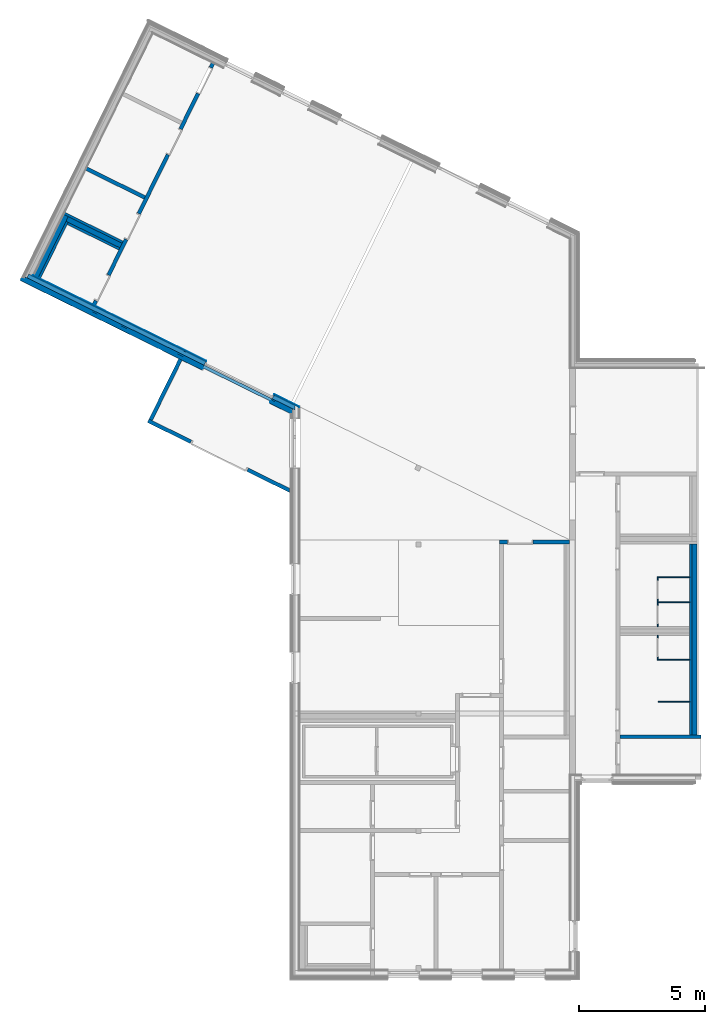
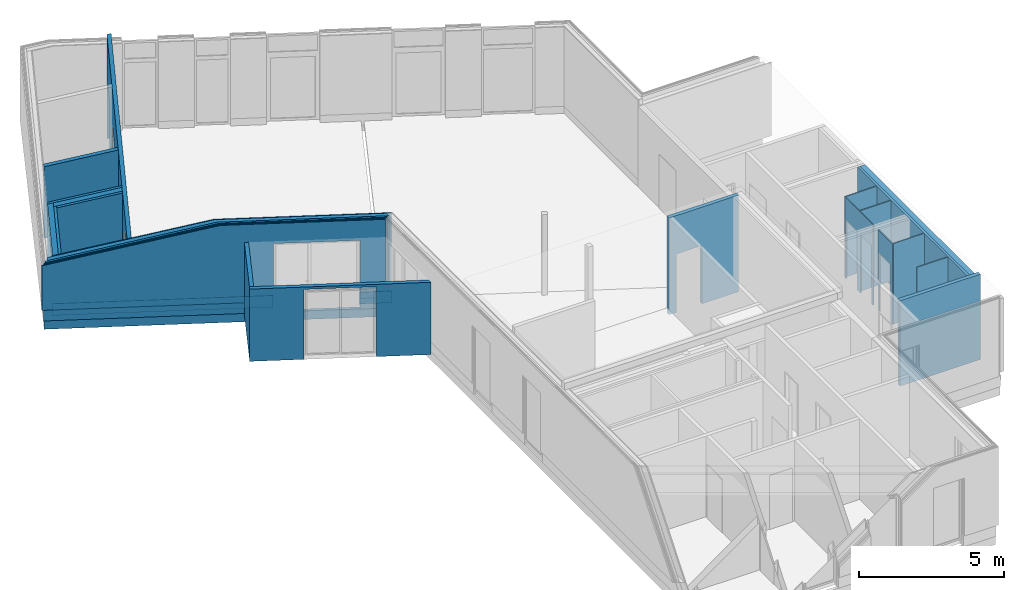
# One storey, part 4 of 23: 30 walls, 20 openings, 3 elements without a shape of their own.
"""IFC4 building model written with IfcOpenShell, lengths in metres."""

from ifc_helpers import new_model, entity, si_unit, converted_unit, derived_unit, frame, frame_2d, origin, origin_with_axes, place, context, subcontext, project, spatial, polyline, rectangle, outline, extrude, clip, halfspace, bounded_halfspace, material, element, aggregate, save


model = new_model("IFC4")

# Units and contexts
model_context = context("Model", 3, precision=1e-05, world=origin())
body_context = subcontext(model_context, "Body", "Model", "MODEL_VIEW")
ifc_project = project(units=[si_unit("LENGTHUNIT", "METRE"), si_unit("AREAUNIT", "SQUARE_METRE"), si_unit("VOLUMEUNIT", "CUBIC_METRE"), si_unit("MASSUNIT", "GRAM", prefix="KILO"), converted_unit("PLANEANGLEUNIT", "DEGREE", entity("IfcPlaneAngleMeasure", 0.0174532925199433), si_unit("PLANEANGLEUNIT", "RADIAN"), dimensions=[0, 0, 0, 0, 0, 0, 0]), derived_unit("THERMALTRANSMITTANCEUNIT", [(si_unit("POWERUNIT", "WATT"), 1), (si_unit("THERMODYNAMICTEMPERATUREUNIT", "KELVIN"), -1), (si_unit("LENGTHUNIT", "METRE"), -2)]), derived_unit("VOLUMETRICFLOWRATEUNIT", [(si_unit("LENGTHUNIT", "METRE"), 3), (converted_unit("TIMEUNIT", "hour", entity("IfcTimeMeasure", 3600.0), si_unit("TIMEUNIT", "SECOND"), dimensions=[0, 0, 1, 0, 0, 0, 0]), -1), (si_unit("LENGTHUNIT", "METRE"), -1)])], contexts=[model_context])

# Site, building, storey
site_placement = place(None, origin())
site = spatial("IfcSite", under=ifc_project, at=site_placement, Name="Psychiatrie Neubau Wunstorf", CompositionType="ELEMENT")
building_placement = place(site_placement, origin())
building = spatial("IfcBuilding", under=site, at=building_placement, Name="Neubau H1 Sozialzentrum", CompositionType="ELEMENT")
storey_placement = place(building_placement, frame((0.0, 0.0, 0.7)))
storey = spatial("IfcBuildingStorey", under=building, at=storey_placement, Name="H1 Ebene 0", CompositionType="ELEMENT", Elevation=0.7)

# Wall
ifc_material_1 = material(Name="WA-HS")
wall_1_placement = place(storey_placement, frame((-21.7041777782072, 26.0228670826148, -0.2), z_axis=(0.0, 0.0, 1.0), x_axis=(0.442222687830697, 0.896905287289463, 0.0)))
element("IfcWall", 1, at=wall_1_placement, inside=storey, material=ifc_material_1, context=body_context, shape_type="SweptSolid", body=[
    extrude(rectangle(XDim=2.67323132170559, YDim=0.149999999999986, at=frame_2d((1.33661566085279, 0.0749999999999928), x_axis=(1.0, 0.0))), origin_with_axes(), (0.0, 0.0, 1.0), 3.05),
])

# Wall, opening
ifc_material_2 = material(Name="WA-HS")
wall_2_placement = place(storey_placement, frame((-16.2507370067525, 23.3340266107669, -0.2), z_axis=(0.0, 0.0, 1.0), x_axis=(-0.896905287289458, 0.442222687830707, 0.0)))
wall_2 = element("IfcWall", 2, at=wall_2_placement, inside=storey, material=ifc_material_2, context=body_context, shape_type="Clipping", body=[
    clip(extrude(outline(polyline([(-5.00039903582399, -2.64442704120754), (1.22988708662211, -2.64442704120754), (1.22988708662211, -2.49442704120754), (-5.05913618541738, -2.49442704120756), (-5.00039903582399, -2.61354155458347), (-5.00039903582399, -2.64442704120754)])), frame((5.00039903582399, 2.64442704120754, 0.0), z_axis=(0.0, 0.0, 1.0), x_axis=(1.0, 0.0, 0.0)), (0.0, 0.0, 1.0), 3.05), bounded_halfspace(frame((-0.0203897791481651, 0.0661770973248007, 0.5), z_axis=(0.0, 0.0, -1.0), x_axis=(-0.442222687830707, 0.896905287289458, 0.0)), True, origin_with_axes(), polyline([(0.0153731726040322, 0.0), (-0.0585849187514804, 0.149999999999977), (-0.0587371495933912, 0.149999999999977), (0.0, 0.0308854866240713), (0.0, 0.0), (0.0153731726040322, 0.0)]))),
])
opening_1_placement = place(wall_2_placement, frame((4.34028612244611, 0.149999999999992, 0.0), z_axis=(6.06329801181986e-15, -1.0, 0.0), x_axis=(0.0, 0.0, 1.0)))
element("IfcOpeningElement", 3, at=opening_1_placement, cuts=wall_2, Name="Türöffnung", ObjectType="Opening", context=body_context, shape_type="SweptSolid", body=[
    extrude(outline(polyline([(2.95, 2.5), (2.95, 0.0), (0.0, 0.0), (0.0, 2.5), (2.95, 2.5)])), origin_with_axes(), (0.0, 0.0, 1.0), 0.149999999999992),
])

ifc_material_3 = material(Name="WA-LB")
wall_3_placement = place(storey_placement, frame((-15.8985266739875, 26.5890799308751, 0.3), z_axis=(0.0, 0.0, 1.0), x_axis=(-0.896905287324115, 0.442222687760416, 0.0)))
wall_3 = element("IfcWall", 4, at=wall_3_placement, inside=storey, material=ifc_material_3, context=body_context, shape_type="Clipping", body=[
    clip(extrude(outline(polyline([(-9.4551160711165, -4.7066339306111), (2.30287447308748, -4.7066339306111), (2.3028744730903, -4.67063393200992), (-9.47286601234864, -4.67063393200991), (-9.4551160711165, -4.7066339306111)])), frame((9.4551160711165, 4.7066339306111, 0.0), z_axis=(0.0, 0.0, 1.0), x_axis=(1.0, 0.0, 0.0)), (0.0, 0.0, 1.0), 3.3), bounded_halfspace(frame((8.94480400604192, 0.0179999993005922, 2.6529670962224), z_axis=(-0.222899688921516, -0.105378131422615, -0.96912908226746), x_axis=(0.427404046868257, -0.904060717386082, 0.0)), True, origin_with_axes(), polyline([(6.1231077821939, 0.0359999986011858), (6.14012715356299, 0.0), (11.757990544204, 0.0), (11.7579905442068, 0.0359999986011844), (6.1231077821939, 0.0359999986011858)]))),
])
opening_2_placement = place(wall_3_placement, frame((4.08930374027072, 0.0359999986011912, -0.5), z_axis=(-1.26318713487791e-14, -1.0, 0.0), x_axis=(0.0, 0.0, 1.0)))
element("IfcOpeningElement", 5, at=opening_2_placement, cuts=wall_3, Name="Türöffnung", ObjectType="Opening", context=body_context, shape_type="SweptSolid", body=[
    extrude(outline(polyline([(2.95, 2.9999894), (2.95, 0.0), (0.0, 0.0), (0.0, 2.9999894), (2.95, 2.9999894)])), origin_with_axes(), (0.0, 0.0, 1.0), 0.0359999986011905),
])

ifc_material_4 = material(Name="WA-HD")
wall_4_placement = place(storey_placement, frame((-16.0585259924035, 26.6278302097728, 0.3), z_axis=(0.0, 0.0, 1.0), x_axis=(-0.896905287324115, 0.442222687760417, 0.0)))
wall_4 = element("IfcWall", 6, at=wall_4_placement, inside=storey, material=ifc_material_4, context=body_context, shape_type="Clipping", body=[
    clip(extrude(outline(polyline([(-9.44264401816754, -4.85462836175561), (2.31470535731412, -4.85462836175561), (2.31470535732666, -4.69462904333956), (-9.52153231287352, -4.69462904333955), (-9.44264401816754, -4.85462836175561)])), frame((9.44264401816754, 4.85462836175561, 0.0), z_axis=(0.0, 0.0, 1.0), x_axis=(1.0, 0.0, 0.0)), (0.0, 0.0, 1.0), 3.3), bounded_halfspace(frame((8.84099800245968, 0.0799996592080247, 2.6292391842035), z_axis=(-0.222899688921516, -0.105378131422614, -0.96912908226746), x_axis=(0.427404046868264, -0.904060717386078, 0.0)), True, origin_with_axes(), polyline([(5.88682596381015, 0.159999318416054), (5.96246729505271, 0.0), (11.7573493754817, 0.0), (11.7573493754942, 0.159999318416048), (5.88682596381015, 0.159999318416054)]))),
])
opening_3_placement = place(wall_4_placement, frame((3.92866325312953, 0.159999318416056, -0.5), z_axis=(-8.52654915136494e-15, -1.0, 0.0), x_axis=(0.0, 0.0, 1.0)))
element("IfcOpeningElement", 7, at=opening_3_placement, cuts=wall_4, Name="Türöffnung", ObjectType="Opening", context=body_context, shape_type="SweptSolid", body=[
    extrude(outline(polyline([(2.95, 2.9999894), (2.95, 0.0), (0.0, 0.0), (0.0, 2.9999894), (2.95, 2.9999894)])), origin_with_axes(), (0.0, 0.0, 1.0), 0.159999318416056),
])

ifc_material_5 = material(Name="WA-DL")
wall_5_placement = place(storey_placement, frame((-16.1385259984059, 26.4888840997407, 0.3), z_axis=(0.0, 0.0, 1.0), x_axis=(-0.896905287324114, 0.442222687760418, 0.0)))
wall_5 = element("IfcWall", 8, at=wall_5_placement, inside=storey, material=ifc_material_5, context=body_context, shape_type="Clipping", body=[
    clip(extrude(outline(polyline([(-9.50642125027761, -4.78662665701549), (2.3206208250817, -4.78662665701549), (2.32062082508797, -4.70662665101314), (-9.5458655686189, -4.70662665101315), (-9.50642125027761, -4.78662665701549)])), frame((9.50642125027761, 4.78662665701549, 0.0), z_axis=(0.0, 0.0, 1.0), x_axis=(1.0, 0.0, 0.0)), (0.0, 0.0, 1.0), 3.3), bounded_halfspace(frame((8.84232515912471, 0.0400000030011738, 2.61351510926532), z_axis=(-0.222899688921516, -0.105378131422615, -0.96912908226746), x_axis=(0.427404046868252, -0.904060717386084, 0.0)), True, origin_with_axes(), polyline([(5.83869782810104, 0.0800000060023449), (5.87651865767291, 0.0), (11.8270420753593, 0.0), (11.8270420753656, 0.0800000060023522), (5.83869782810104, 0.0800000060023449)]))),
])
opening_4_placement = place(wall_5_placement, frame((3.9183559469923, 0.080000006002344, -0.5), z_axis=(0.0, -1.0, 0.0), x_axis=(0.0, 0.0, 1.0)))
element("IfcOpeningElement", 9, at=opening_4_placement, cuts=wall_5, Name="Türöffnung", ObjectType="Opening", context=body_context, shape_type="SweptSolid", body=[
    extrude(outline(polyline([(2.95, 2.9999894), (2.95, 0.0), (0.0, 0.0), (0.0, 2.9999894), (2.95, 2.9999894)])), origin_with_axes(), (0.0, 0.0, 1.0), 0.0800000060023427),
])

ifc_material_6 = material(Name="WA-LB")
wall_6_placement = place(storey_placement, frame((-16.1745260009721, 26.4174384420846, 0.3), z_axis=(0.0, 0.0, 1.0), x_axis=(-0.896905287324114, 0.442222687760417, 0.0)))
wall_6 = element("IfcWall", 10, at=wall_6_placement, inside=storey, material=ifc_material_6, context=body_context, shape_type="Clipping", body=[
    clip(extrude(outline(polyline([(-9.53906559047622, -4.74802557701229), (2.32328278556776, -4.74802557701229), (2.32328278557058, -4.71202557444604), (-9.55681553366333, -4.71202557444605), (-9.53906559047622, -4.74802557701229)])), frame((9.53906559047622, 4.74802557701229, 0.0), z_axis=(0.0, 0.0, 1.0), x_axis=(1.0, 0.0, 0.0)), (0.0, 0.0, 1.0), 3.3), bounded_halfspace(frame((8.8459214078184, 0.0180000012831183, 2.60622179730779), z_axis=(-0.222899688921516, -0.105378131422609, -0.969129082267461), x_axis=(0.427404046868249, -0.904060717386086, 0.0)), True, origin_with_axes(), polyline([(5.82098475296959, 0.0360000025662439), (5.8380041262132, 0.0), (11.862348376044, 0.0), (11.8623483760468, 0.0360000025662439), (5.82098475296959, 0.0360000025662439)]))),
])
opening_5_placement = place(wall_6_placement, frame((3.91766224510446, 0.03600000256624, -0.5), z_axis=(-6.31593497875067e-14, -1.0, 0.0), x_axis=(0.0, 0.0, 1.0)))
element("IfcOpeningElement", 11, at=opening_5_placement, cuts=wall_6, Name="Türöffnung", ObjectType="Opening", context=body_context, shape_type="SweptSolid", body=[
    extrude(outline(polyline([(2.95, 2.9999894), (2.95, 0.0), (0.0, 0.0), (0.0, 2.9999894), (2.95, 2.9999894)])), origin_with_axes(), (0.0, 0.0, 1.0), 0.0360000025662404),
])

ifc_material_7 = material(Name="WA-KL")
wall_7_placement = place(storey_placement, frame((-16.1985252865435, 26.3891333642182, 0.3), z_axis=(0.0, 0.0, 1.0), x_axis=(-0.896905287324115, 0.442222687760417, 0.0)))
wall_7 = element("IfcWall", 12, at=wall_7_placement, inside=storey, material=ifc_material_7, context=body_context, shape_type="Clipping", body=[
    clip(extrude(outline(polyline([(-9.55228235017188, -4.73962403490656), (2.3250573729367, -4.73962403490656), (2.32505737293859, -4.71562474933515), (-9.56411529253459, -4.71562474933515), (-9.55228235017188, -4.73962403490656)])), frame((9.55228235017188, 4.73962403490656, 0.0), z_axis=(0.0, 0.0, 1.0), x_axis=(1.0, 0.0, 0.0)), (0.0, 0.0, 1.0), 3.3), bounded_halfspace(frame((8.84182179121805, 0.0119996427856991, 2.60183087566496), z_axis=(-0.222899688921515, -0.105378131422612, -0.969129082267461), x_axis=(0.427404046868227, -0.904060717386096, 0.0)), True, origin_with_axes(), polyline([(5.8006309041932, 0.0239992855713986), (5.81197681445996, 0.0), (11.8773397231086, 0.0), (11.8773397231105, 0.0239992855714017), (5.8006309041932, 0.0239992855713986)]))),
])
opening_6_placement = place(wall_7_placement, frame((3.90865430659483, 0.0239992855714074, -0.5), z_axis=(-1.89483703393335e-14, -1.0, 0.0), x_axis=(0.0, 0.0, 1.0)))
element("IfcOpeningElement", 13, at=opening_6_placement, cuts=wall_7, Name="Türöffnung", ObjectType="Opening", context=body_context, shape_type="SweptSolid", body=[
    extrude(outline(polyline([(2.95, 2.9999894), (2.95, 0.0), (0.0, 0.0), (0.0, 2.9999894), (2.95, 2.9999894)])), origin_with_axes(), (0.0, 0.0, 1.0), 0.023999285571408),
])

ifc_material_8 = material(Name="WA-TL")
wall_8_placement = place(storey_placement, frame((-16.2225252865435, 26.374208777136, 0.3), z_axis=(0.0, 0.0, 1.0), x_axis=(-0.896905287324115, 0.442222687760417, 0.0)))
wall_8 = element("IfcWall", 14, at=wall_8_placement, inside=storey, material=ifc_material_8, context=body_context, shape_type="Clipping", body=[
    clip(extrude(outline(polyline([(-9.55958197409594, -4.74322403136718), (2.32683201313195, -4.74322403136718), (2.32683201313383, -4.71922403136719), (-9.57141526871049, -4.71922403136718), (-9.55958197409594, -4.74322403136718)])), frame((9.55958197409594, 4.74322403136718, 0.0), z_axis=(0.0, 0.0, 1.0), x_axis=(1.0, 0.0, 0.0)), (0.0, 0.0, 1.0), 3.3), bounded_halfspace(frame((8.83322301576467, 0.0119999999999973, 2.59776607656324), z_axis=(-0.222899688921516, -0.105378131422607, -0.969129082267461), x_axis=(0.427404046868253, -0.904060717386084, 0.0)), True, origin_with_axes(), polyline([(5.77435892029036, 0.0239999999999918), (5.78570516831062, 0.0), (11.8864139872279, 0.0), (11.8864139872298, 0.0239999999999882), (5.77435892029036, 0.0239999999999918)]))),
])
opening_7_placement = place(wall_8_placement, frame((3.89372857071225, 0.0239999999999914, -0.5), z_axis=(-5.68434188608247e-14, -1.0, 0.0), x_axis=(0.0, 0.0, 1.0)))
element("IfcOpeningElement", 15, at=opening_7_placement, cuts=wall_8, Name="Türöffnung", ObjectType="Opening", context=body_context, shape_type="SweptSolid", body=[
    extrude(outline(polyline([(2.95, 2.9999894), (2.95, 0.0), (0.0, 0.0), (0.0, 2.9999894), (2.95, 2.9999894)])), origin_with_axes(), (0.0, 0.0, 1.0), 0.0239999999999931),
])

ifc_material_9 = material(Name="WA-HS")
wall_9_placement = place(storey_placement, frame((-16.2645252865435, 26.3681583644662, 0.3), z_axis=(0.0, 0.0, 1.0), x_axis=(-0.896905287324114, 0.442222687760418, 0.0)))
wall_9 = element("IfcWall", 16, at=wall_9_placement, inside=storey, material=ifc_material_9, context=body_context, shape_type="Clipping", body=[
    clip(extrude(outline(polyline([(-9.56348196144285, -4.76752277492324), (2.3299376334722, -4.76752277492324), (2.3299376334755, -4.72552277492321), (-9.58419022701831, -4.72552277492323), (-9.56348196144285, -4.76752277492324)])), frame((9.56348196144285, 4.76752277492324, 0.0), z_axis=(0.0, 0.0, 1.0), x_axis=(1.0, 0.0, 0.0)), (0.0, 0.0, 1.0), 3.3), bounded_halfspace(frame((8.81142807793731, 0.0210000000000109, 2.59114195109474), z_axis=(-0.222899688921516, -0.105378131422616, -0.96912908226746), x_axis=(0.42740404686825, -0.904060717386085, 0.0)), True, origin_with_axes(), polyline([(5.7195085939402, 0.0420000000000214), (5.73936452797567, 0.0), (11.8934195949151, 0.0), (11.8934195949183, 0.0420000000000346), (5.7195085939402, 0.0420000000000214)]))),
])
opening_8_placement = place(wall_9_placement, frame((3.85873417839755, 0.0420000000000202, -0.5), z_axis=(3.24819536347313e-14, -1.0, 0.0), x_axis=(0.0, 0.0, 1.0)))
element("IfcOpeningElement", 17, at=opening_8_placement, cuts=wall_9, Name="Türöffnung", ObjectType="Opening", context=body_context, shape_type="SweptSolid", body=[
    extrude(outline(polyline([(2.95, 2.9999894), (2.95, 0.0), (0.0, 0.0), (0.0, 2.9999894), (2.95, 2.9999894)])), origin_with_axes(), (0.0, 0.0, 1.0), 0.0420000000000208),
])

ifc_material_10 = material(Name="WA-LB")
wall_10_placement = place(storey_placement, frame((-15.8835259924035, 26.5816845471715, -0.2), z_axis=(0.0, 0.0, 1.0), x_axis=(-0.896905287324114, 0.442222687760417, 0.0)))
wall_10 = element("IfcWall", 18, at=wall_10_placement, inside=storey, material=ifc_material_10, context=body_context, shape_type="SweptSolid", body=[
    extrude(outline(polyline([(-9.45794918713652, -4.6893842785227), (2.30176527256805, -4.6893842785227), (2.30176527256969, -4.66838427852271), (-9.46830331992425, -4.6683842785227), (-9.45794918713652, -4.6893842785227)])), frame((9.45794918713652, 4.6893842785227, 0.0), z_axis=(0.0, 0.0, 1.0), x_axis=(1.0, 0.0, 0.0)), (0.0, 0.0, 1.0), 0.5),
])
opening_9_placement = place(wall_10_placement, frame((4.10602833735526, 0.020999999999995, 0.0), z_axis=(8.66185430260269e-14, -1.0, 0.0), x_axis=(0.0, 0.0, 1.0)))
element("IfcOpeningElement", 19, at=opening_9_placement, cuts=wall_10, Name="Wanddurchbruch", ObjectType="Opening", context=body_context, shape_type="SweptSolid", body=[
    extrude(outline(polyline([(0.5, 2.9999894), (0.5, 0.0), (0.0, 0.0), (0.0, 2.9999894), (0.5, 2.9999894)])), origin_with_axes(), (0.0, 0.0, 1.0), 0.0209999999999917),
])

ifc_material_11 = material(Name="WA-STB")
wall_11_placement = place(storey_placement, frame((-16.0585259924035, 26.6445551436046, -0.2), z_axis=(0.0, 0.0, 1.0), x_axis=(-0.896905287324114, 0.442222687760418, 0.0)))
wall_11 = element("IfcWall", 20, at=wall_11_placement, inside=storey, material=ifc_material_11, context=body_context, shape_type="SweptSolid", body=[
    extrude(outline(polyline([(-9.43524787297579, -4.86962904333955), (2.31470535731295, -4.86962904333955), (2.31470535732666, -4.69462904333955), (-9.52153231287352, -4.69462904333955), (-9.43524787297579, -4.86962904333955)])), frame((9.43524787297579, 4.86962904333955, 0.0), z_axis=(0.0, 0.0, 1.0), x_axis=(1.0, 0.0, 0.0)), (0.0, 0.0, 1.0), 0.5),
])
opening_10_placement = place(wall_11_placement, frame((3.92126710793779, 0.175000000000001, 0.0), z_axis=(2.59855629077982e-15, -1.0, 0.0), x_axis=(0.0, 0.0, 1.0)))
element("IfcOpeningElement", 21, at=opening_10_placement, cuts=wall_11, Name="Wanddurchbruch", ObjectType="Opening", context=body_context, shape_type="SweptSolid", body=[
    extrude(outline(polyline([(0.5, 2.9999894), (0.5, 0.0), (0.0, 0.0), (0.0, 2.9999894), (0.5, 2.9999894)])), origin_with_axes(), (0.0, 0.0, 1.0), 0.174999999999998),
])

ifc_material_12 = material(Name="WA-DE")
wall_12_placement = place(storey_placement, frame((-16.1785259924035, 26.5086062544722, -0.56), z_axis=(0.0, 0.0, 1.0), x_axis=(-0.896905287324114, 0.442222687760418, 0.0)))
wall_12 = element("IfcWall", 22, at=wall_12_placement, inside=storey, material=ifc_material_12, context=body_context, shape_type="SweptSolid", body=[
    extrude(outline(polyline([(-9.4988657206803, -4.83262545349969), (2.32357855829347, -4.83262545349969), (2.32357855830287, -4.71262545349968), (-9.55803219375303, -4.71262545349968), (-9.4988657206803, -4.83262545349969)])), frame((9.4988657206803, 4.83262545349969, 0.0), z_axis=(0.0, 0.0, 1.0), x_axis=(1.0, 0.0, 0.0)), (0.0, 0.0, 1.0), 0.86),
])
opening_11_placement = place(wall_12_placement, frame((3.87375815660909, 0.12000000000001, 0.36), z_axis=(0.0, -1.0, 0.0), x_axis=(0.0, 0.0, 1.0)))
element("IfcOpeningElement", 23, at=opening_11_placement, cuts=wall_12, Name="Wanddurchbruch", ObjectType="Opening", context=body_context, shape_type="SweptSolid", body=[
    extrude(outline(polyline([(0.5, 2.9999894), (0.5, 0.0), (0.0, 0.0), (0.0, 2.9999894), (0.5, 2.9999894)])), origin_with_axes(), (0.0, 0.0, 1.0), 0.120000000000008),
])

ifc_material_13 = material(Name="WA-LB")
wall_13_placement = place(storey_placement, frame((-16.1935259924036, 26.3822086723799, -0.2), z_axis=(0.0, 0.0, 1.0), x_axis=(-0.896905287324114, 0.442222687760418, 0.0)))
wall_13 = element("IfcWall", 24, at=wall_13_placement, inside=storey, material=ifc_material_13, context=body_context, shape_type="SweptSolid", body=[
    extrude(outline(polyline([(-9.55519886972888, -4.72987500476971), (2.32468770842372, -4.72987500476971), (2.3246877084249, -4.7148750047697), (-9.56259467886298, -4.7148750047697), (-9.55519886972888, -4.72987500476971)])), frame((9.55519886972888, 4.72987500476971, 0.0), z_axis=(0.0, 0.0, 1.0), x_axis=(1.0, 0.0, 0.0)), (0.0, 0.0, 1.0), 0.5),
])
opening_12_placement = place(wall_13_placement, frame((3.9162004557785, 0.0150000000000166, 0.0), z_axis=(-9.09494701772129e-14, -1.0, 0.0), x_axis=(0.0, 0.0, 1.0)))
element("IfcOpeningElement", 25, at=opening_12_placement, cuts=wall_13, Name="Wanddurchbruch", ObjectType="Opening", context=body_context, shape_type="SweptSolid", body=[
    extrude(outline(polyline([(0.5, 2.9999894), (0.5, 0.0), (0.0, 0.0), (0.0, 2.9999894), (0.5, 2.9999894)])), origin_with_axes(), (0.0, 0.0, 1.0), 0.0150000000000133),
])

# Walls
ifc_material_14 = material(Name="Installationsraum")
wall_14_placement = place(storey_placement, frame((-0.121, 13.5722463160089, -0.2), z_axis=(0.0, 0.0, 1.0), x_axis=(-1.03867336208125e-15, 1.0, 0.0)))
element("IfcWall", 26, at=wall_14_placement, inside=storey, material=ifc_material_14, context=body_context, shape_type="SweptSolid", body=[
    extrude(rectangle(XDim=7.56600000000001, YDim=0.199998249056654, at=frame_2d((3.783, 0.0999991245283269), x_axis=(1.0, 0.0))), origin_with_axes(), (0.0, 0.0, 1.0), 3.6),
])
ifc_material_15 = material(Name="WI-IW")
wall_15_placement = place(storey_placement, frame((-0.320998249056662, 13.5722463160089, -0.2), z_axis=(0.0, 0.0, 1.0), x_axis=(0.0, 1.0, 0.0)))
element("IfcWall", 27, at=wall_15_placement, inside=storey, material=ifc_material_15, context=body_context, shape_type="SweptSolid", body=[
    extrude(rectangle(XDim=7.56600000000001, YDim=0.1, at=frame_2d((3.783, 0.05), x_axis=(1.0, 0.0))), origin_with_axes(), (0.0, 0.0, 1.0), 3.6),
])
ifc_material_16 = material(Name="WI-LB")
wall_16_placement = place(storey_placement, frame((-0.420998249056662, 19.8422463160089, 0.0), z_axis=(0.0, 0.0, 1.0), x_axis=(-1.0, 0.0, 0.0)))
element("IfcWall", 28, at=wall_16_placement, inside=storey, material=ifc_material_16, context=body_context, shape_type="SweptSolid", body=[
    extrude(rectangle(XDim=1.28000000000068, YDim=0.04, at=frame_2d((0.640000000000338, 0.02), x_axis=(1.0, 0.0))), origin_with_axes(), (0.0, 0.0, 1.0), 3.4),
])
ifc_material_17 = material(Name="WI-IW")
wall_17_placement = place(storey_placement, frame((-3.18450147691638, 13.4222463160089, -0.2)))
element("IfcWall", 29, at=wall_17_placement, inside=storey, material=ifc_material_17, context=body_context, shape_type="SweptSolid", body=[
    extrude(rectangle(XDim=3.21450147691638, YDim=0.15, at=frame_2d((1.60725073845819, 0.075), x_axis=(1.0, 0.0))), origin_with_axes(), (0.0, 0.0, 1.0), 3.6),
])

# Wall, opening
ifc_material_18 = material(Name="WI-IW")
wall_18_placement = place(storey_placement, frame((-7.94152706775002, 21.1382463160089, -0.2)))
wall_18 = element("IfcWall", 30, at=wall_18_placement, inside=storey, material=ifc_material_18, context=body_context, shape_type="SweptSolid", body=[
    extrude(rectangle(XDim=2.77500176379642, YDim=0.149999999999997, at=frame_2d((1.38750088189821, 0.0749999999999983), x_axis=(1.0, 0.0))), origin_with_axes(), (0.0, 0.0, 1.0), 4.08),
])
opening_13_placement = place(wall_18_placement, frame((0.300000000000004, 0.0, 0.0), z_axis=(0.0, 1.0, 0.0), x_axis=(0.0, 0.0, 1.0)))
element("IfcOpeningElement", 31, at=opening_13_placement, cuts=wall_18, Name="Türöffnung", ObjectType="Opening", context=body_context, shape_type="SweptSolid", body=[
    extrude(outline(polyline([(2.46, 1.01), (2.46, 0.0), (0.0, 0.0), (0.0, 1.01), (2.46, 1.01)])), origin_with_axes(), (0.0, 0.0, 1.0), 0.149999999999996),
])

# Wall, openings
ifc_material_19 = material(Name="WI-LB")
wall_19_placement = place(storey_placement, frame((-23.9635187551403, 30.5655565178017, -0.2), z_axis=(0.0, 0.0, 1.0), x_axis=(0.44222268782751, 0.896905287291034, 0.0)))
wall_19 = element("IfcWall", 32, at=wall_19_placement, inside=storey, material=ifc_material_19, context=body_context, shape_type="Clipping", body=[
    clip(extrude(rectangle(XDim=10.6918526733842, YDim=0.149967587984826, at=frame_2d((5.34592633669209, 0.074983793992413), x_axis=(1.0, 0.0))), origin_with_axes(), (0.0, 0.0, 1.0), 4.29485537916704), halfspace(frame((5.34592633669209, 0.0749837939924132, 3.69632046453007), z_axis=(0.105378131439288, -0.222899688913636, -0.96912908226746), x_axis=(0.994140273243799, 0.0, 0.108097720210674)), True)),
])
opening_14_placement = place(wall_19_placement, frame((10.4918526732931, 0.149967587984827, 0.0), z_axis=(-1.21292169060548e-14, -1.0, 0.0), x_axis=(0.0, 0.0, 1.0)))
element("IfcOpeningElement", 33, at=opening_14_placement, cuts=wall_19, Name="Türöffnung", ObjectType="Opening", context=body_context, shape_type="SweptSolid", body=[
    extrude(outline(polyline([(2.46, 1.135), (2.46, 0.0), (0.0, 0.0), (0.0, 1.135), (2.46, 1.135)])), origin_with_axes(), (0.0, 0.0, 1.0), 0.149967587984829),
])
opening_15_placement = place(wall_19_placement, frame((0.199999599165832, 0.0, 0.0), z_axis=(2.46374718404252e-15, 1.0, 0.0), x_axis=(0.0, 0.0, 1.0)))
element("IfcOpeningElement", 34, at=opening_15_placement, cuts=wall_19, Name="Türöffnung", ObjectType="Opening", context=body_context, shape_type="SweptSolid", body=[
    extrude(outline(polyline([(2.46, 1.135), (2.46, 0.0), (0.0, 0.0), (0.0, 1.135), (2.46, 1.135)])), origin_with_axes(), (0.0, 0.0, 1.0), 0.149967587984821),
])
opening_16_placement = place(wall_19_placement, frame((7.78245267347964, 0.149967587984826, 0.0), z_axis=(-1.21292169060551e-14, -1.0, 0.0), x_axis=(0.0, 0.0, 1.0)))
element("IfcOpeningElement", 35, at=opening_16_placement, cuts=wall_19, Name="Türöffnung", ObjectType="Opening", context=body_context, shape_type="SweptSolid", body=[
    extrude(outline(polyline([(2.46, 1.13500110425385), (2.46, 0.0), (0.0, 0.0), (0.0, 1.13500110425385), (2.46, 1.13500110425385)])), origin_with_axes(), (0.0, 0.0, 1.0), 0.149967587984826),
])
opening_17_placement = place(wall_19_placement, frame((4.04439945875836, 0.149967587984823, 0.0), z_axis=(1.81938253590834e-14, -1.0, 0.0), x_axis=(0.0, 0.0, 1.0)))
element("IfcOpeningElement", 36, at=opening_17_placement, cuts=wall_19, Name="Türöffnung", ObjectType="Opening", context=body_context, shape_type="SweptSolid", body=[
    extrude(outline(polyline([(2.46, 1.13500030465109), (2.46, 0.0), (0.0, 0.0), (0.0, 1.13500030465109), (2.46, 1.13500030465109)])), origin_with_axes(), (0.0, 0.0, 1.0), 0.14996758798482),
])

# Walls
ifc_material_20 = material(Name="WI-IW")
wall_20_placement = place(storey_placement, frame((-22.8598029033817, 33.1432084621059, -0.2), z_axis=(0.0, 0.0, 1.0), x_axis=(-0.896905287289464, 0.442222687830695, 0.0)))
element("IfcWall", 37, at=wall_20_placement, inside=storey, material=ifc_material_20, context=body_context, shape_type="Clipping", body=[
    clip(extrude(rectangle(XDim=2.58000075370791, YDim=0.0999999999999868, at=frame_2d((1.29000037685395, 0.0499999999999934), x_axis=(1.0, 0.0))), origin_with_axes(), (0.0, 0.0, 1.0), 3.40224297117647), halfspace(frame((1.29000037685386, 0.0499999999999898, 3.10010614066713), z_axis=(-0.222899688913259, -0.10537813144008, -0.96912908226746), x_axis=(0.974555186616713, 0.0, -0.224147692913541)), True)),
])
ifc_material_21 = material(Name="Installationsraum")
wall_21_placement = place(storey_placement, frame((-22.9040251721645, 33.0535179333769, -0.2), z_axis=(0.0, 0.0, 1.0), x_axis=(-0.896905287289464, 0.442222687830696, 0.0)))
element("IfcWall", 38, at=wall_21_placement, inside=storey, material=ifc_material_21, context=body_context, shape_type="Clipping", body=[
    clip(extrude(rectangle(XDim=2.38000250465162, YDim=0.19999824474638, at=frame_2d((1.19000125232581, 0.0999991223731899), x_axis=(1.0, 0.0))), origin_with_axes(), (0.0, 0.0, 1.0), 3.39136948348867), halfspace(frame((1.19000125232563, 0.0999991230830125, 3.10679580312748), z_axis=(-0.222899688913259, -0.10537813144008, -0.96912908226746), x_axis=(0.974555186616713, 0.0, -0.224147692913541)), True)),
])
ifc_material_22 = material(Name="WI-IW")
wall_22_placement = place(storey_placement, frame((-22.9924689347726, 32.8741384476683, -0.2), z_axis=(0.0, 0.0, 1.0), x_axis=(-0.896905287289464, 0.442222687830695, 0.0)))
element("IfcWall", 39, at=wall_22_placement, inside=storey, material=ifc_material_22, context=body_context, shape_type="Clipping", body=[
    clip(extrude(rectangle(XDim=2.28000250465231, YDim=0.0999999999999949, at=frame_2d((1.14000125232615, 0.0499999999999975), x_axis=(1.0, 0.0))), origin_with_axes(), (0.0, 0.0, 1.0), 3.36962269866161), halfspace(frame((1.14000125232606, 0.0500000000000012, 3.10198566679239), z_axis=(-0.222899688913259, -0.105378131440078, -0.96912908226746), x_axis=(0.974555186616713, 0.0, -0.224147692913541)), True)),
])
ifc_material_23 = material(Name="WI-IW")
wall_23_placement = place(storey_placement, frame((-26.1429719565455, 31.6401440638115, -0.2), z_axis=(0.0, 0.0, 1.0), x_axis=(0.442222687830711, 0.896905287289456, 0.0)))
element("IfcWall", 40, at=wall_23_placement, inside=storey, material=ifc_material_23, context=body_context, shape_type="Clipping", body=[
    clip(extrude(rectangle(XDim=2.50000000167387, YDim=0.100000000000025, at=frame_2d((1.25000000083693, 0.0500000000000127), x_axis=(1.0, 0.0))), origin_with_axes(), (0.0, 0.0, 1.0), 2.84522212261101), halfspace(frame((1.25000000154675, 0.0500000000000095, 2.69780352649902), z_axis=(0.105378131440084, -0.222899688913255, -0.969129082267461), x_axis=(0.994140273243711, -5.55111512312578e-17, 0.108097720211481)), True)),
])
ifc_material_24 = material(Name="Installationsraum")
wall_24_placement = place(storey_placement, frame((-26.2326624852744, 31.6843663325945, -0.2), z_axis=(0.0, 0.0, 1.0), x_axis=(0.442222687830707, 0.896905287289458, 0.0)))
element("IfcWall", 41, at=wall_24_placement, inside=storey, material=ifc_material_24, context=body_context, shape_type="Clipping", body=[
    clip(extrude(rectangle(XDim=2.69999825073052, YDim=0.199998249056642, at=frame_2d((1.34999912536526, 0.099999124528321), x_axis=(1.0, 0.0))), origin_with_axes(), (0.0, 0.0, 1.0), 2.84396890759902), halfspace(frame((1.34999912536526, 0.0999991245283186, 2.67417712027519), z_axis=(0.105378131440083, -0.222899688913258, -0.96912908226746), x_axis=(0.994140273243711, 5.55111512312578e-17, 0.108097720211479)), True)),
])
ifc_material_25 = material(Name="WI-LB")
wall_25_placement = place(storey_placement, frame((-21.9753646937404, 34.9370045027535, -0.2), z_axis=(0.0, 0.0, 1.0), x_axis=(-0.89690528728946, 0.442222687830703, 0.0)))
element("IfcWall", 42, at=wall_25_placement, inside=storey, material=ifc_material_25, context=body_context, shape_type="Clipping", body=[
    clip(extrude(rectangle(XDim=2.58000075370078, YDim=0.14996758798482, at=frame_2d((1.29000037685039, 0.0749837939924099), x_axis=(1.0, 0.0))), origin_with_axes(), (0.0, 0.0, 1.0), 3.61971096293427), halfspace(frame((1.29000037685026, 0.0749837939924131, 3.31485752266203), z_axis=(-0.222899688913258, -0.105378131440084, -0.96912908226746), x_axis=(0.974555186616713, 0.0, -0.22414769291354)), True)),
])

# Wall, openings
ifc_material_26 = material(Name="WI-LB")
wall_26_placement = place(storey_placement, frame((-1.70099824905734, 19.8022463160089, 0.0), z_axis=(0.0, 0.0, 1.0), x_axis=(0.0, -1.0, 0.0)))
wall_26 = element("IfcWall", 43, at=wall_26_placement, inside=storey, material=ifc_material_26, context=body_context, shape_type="SweptSolid", body=[
    extrude(rectangle(XDim=1.94, YDim=0.04, at=frame_2d((0.97, 0.02), x_axis=(1.0, 0.0))), origin_with_axes(), (0.0, 0.0, 1.0), 3.4),
])
opening_18_placement = place(wall_26_placement, frame((1.845, 0.04, 0.0), z_axis=(0.0, -1.0, 0.0), x_axis=(0.0, 0.0, 1.0)))
element("IfcOpeningElement", 44, at=opening_18_placement, cuts=wall_26, Name="Türöffnung", ObjectType="Opening", context=body_context, shape_type="SweptSolid", body=[
    extrude(outline(polyline([(2.46, 0.76), (2.46, 0.0), (0.0, 0.0), (0.0, 0.76), (2.46, 0.76)])), origin_with_axes(), (0.0, 0.0, 1.0), 0.04),
])
opening_19_placement = place(wall_26_placement, frame((0.855, 0.04, 0.0), z_axis=(0.0, -1.0, 0.0), x_axis=(0.0, 0.0, 1.0)))
element("IfcOpeningElement", 45, at=opening_19_placement, cuts=wall_26, Name="Türöffnung", ObjectType="Opening", context=body_context, shape_type="SweptSolid", body=[
    extrude(outline(polyline([(2.46, 0.76), (2.46, 0.0), (0.0, 0.0), (0.0, 0.76), (2.46, 0.76)])), origin_with_axes(), (0.0, 0.0, 1.0), 0.04),
])

# Wall
ifc_material_27 = material(Name="WI-LB")
wall_27_placement = place(storey_placement, frame((-0.420998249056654, 18.8522463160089, 0.0), z_axis=(0.0, 0.0, 1.0), x_axis=(-1.0, 0.0, 0.0)))
element("IfcWall", 46, at=wall_27_placement, inside=storey, material=ifc_material_27, context=body_context, shape_type="SweptSolid", body=[
    extrude(rectangle(XDim=1.24000000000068, YDim=0.04, at=frame_2d((0.620000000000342, 0.02), x_axis=(1.0, 0.0))), origin_with_axes(), (0.0, 0.0, 1.0), 3.4),
])

# Assemblies, walls, opening
assembly_1_placement = place(storey_placement, frame((0.0, 0.0, -0.7)))
assembly_1 = element("IfcElementAssembly", 47, at=assembly_1_placement, inside=storey, PredefinedType="NOTDEFINED")
assembly_2_placement = place(assembly_1_placement, origin())
assembly_2 = element("IfcElementAssembly", 48, at=assembly_2_placement, Name="Innenwand 1-Schalig", PredefinedType="NOTDEFINED")
ifc_material_28 = material(Name="WI-LB")
wall_28_placement = place(assembly_1_placement, frame((-1.66099824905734, 16.5222463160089, 0.7)))
wall_28 = element("IfcWall", 49, at=wall_28_placement, material=ifc_material_28, context=body_context, shape_type="SweptSolid", body=[
    extrude(rectangle(XDim=1.24000000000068, YDim=0.04, at=frame_2d((0.620000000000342, 0.02), x_axis=(1.0, 0.0))), origin_with_axes(), (0.0, 0.0, 1.0), 3.4),
])
aggregate(assembly_2, [wall_28])
assembly_3_placement = place(assembly_1_placement, origin())
assembly_3 = element("IfcElementAssembly", 50, at=assembly_3_placement, Name="Innenwand 1-Schalig", PredefinedType="NOTDEFINED")
aggregate(assembly_1, [assembly_2, assembly_3])
ifc_material_29 = material(Name="WI-LB")
wall_29_placement = place(assembly_1_placement, frame((-1.70099824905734, 17.5122463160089, 0.7), z_axis=(0.0, 0.0, 1.0), x_axis=(0.0, -1.0, 0.0)))
wall_29 = element("IfcWall", 51, at=wall_29_placement, material=ifc_material_29, context=body_context, shape_type="SweptSolid", body=[
    extrude(rectangle(XDim=0.99, YDim=0.04, at=frame_2d((0.495, 0.02), x_axis=(1.0, 0.0))), origin_with_axes(), (0.0, 0.0, 1.0), 3.4),
])
opening_20_placement = place(wall_29_placement, frame((0.855, 0.04, 0.0), z_axis=(0.0, -1.0, 0.0), x_axis=(0.0, 0.0, 1.0)))
element("IfcOpeningElement", 52, at=opening_20_placement, cuts=wall_29, Name="Türöffnung", ObjectType="Opening", context=body_context, shape_type="SweptSolid", body=[
    extrude(outline(polyline([(2.46, 0.76), (2.46, 0.0), (0.0, 0.0), (0.0, 0.76), (2.46, 0.76)])), origin_with_axes(), (0.0, 0.0, 1.0), 0.04),
])
aggregate(assembly_3, [wall_29])

# Wall
ifc_material_30 = material(Name="WI-LB")
wall_30_placement = place(storey_placement, frame((-0.420998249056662, 14.9122463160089, 0.0), z_axis=(0.0, 0.0, 1.0), x_axis=(-1.0, 0.0, 0.0)))
element("IfcWall", 53, at=wall_30_placement, inside=storey, material=ifc_material_30, context=body_context, shape_type="SweptSolid", body=[
    extrude(rectangle(XDim=1.24000000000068, YDim=0.04, at=frame_2d((0.620000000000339, 0.02), x_axis=(1.0, 0.0))), origin_with_axes(), (0.0, 0.0, 1.0), 3.4),
])

save(model, "model.ifc")
